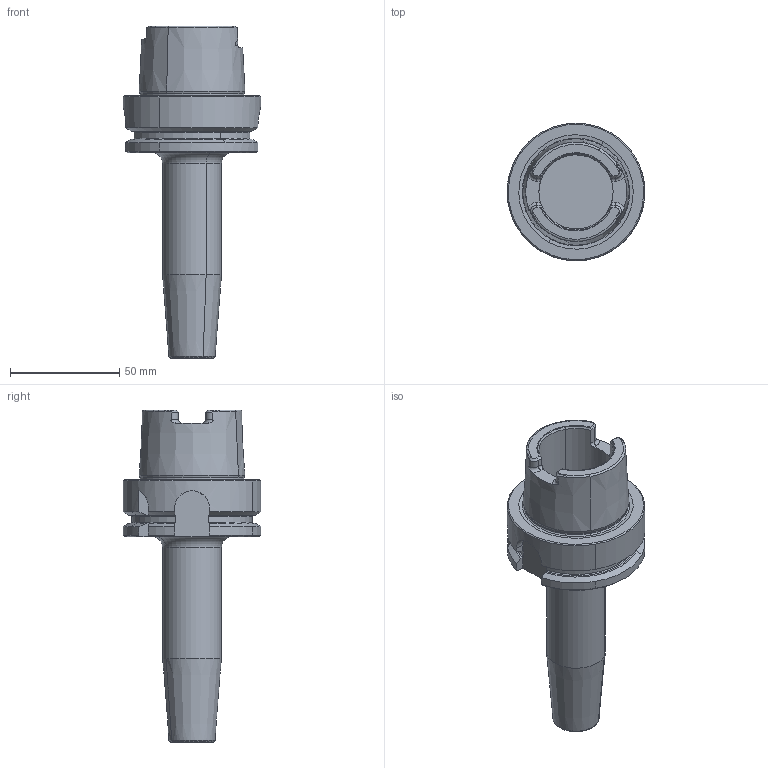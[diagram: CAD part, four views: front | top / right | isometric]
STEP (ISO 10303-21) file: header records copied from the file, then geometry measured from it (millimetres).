
FILE_DESCRIPTION(('CATIA V5 STEP','CAx-IF Rec.Pracs.--- Model Styling and Organization---1.2---2011-12-15'),'2;1');
FILE_NAME('\\nas01\drv1\utils\eitdev\rte\eit\transmagicconvert\db\out\4504017 L.stp','2014-03-27T13:15:36+00:00',('none'),('none'),'CATIA Version 5 Release 21 SP 5 (IN-10)','CATIA V5 STEP AP214','none');
FILE_SCHEMA(('AUTOMOTIVE_DESIGN { 1 0 10303 214 1 1 1 1 }'));
Length unit declared in the file: millimetre
Products named in the file (1): 60792133_0 Holder-Tool HSK A 63 SRKIN 8X120
Bounding box: 62.99 x 63 x 152 mm (x, y, z)
Volume: 140509.6 mm3; surface area: 28145.2 mm2
Topology: 1 solids, 1 shells, 136 faces, 349 edges, 218 vertices
Faces by surface type: plane 41, cone 35, cylinder 32, torus 28
Entity records: 4192 total; most frequent: CARTESIAN_POINT 1272, ORIENTED_EDGE 698, DIRECTION 432, EDGE_CURVE 349, AXIS2_PLACEMENT_3D 232, VERTEX_POINT 218, CIRCLE 151, EDGE_LOOP 139
